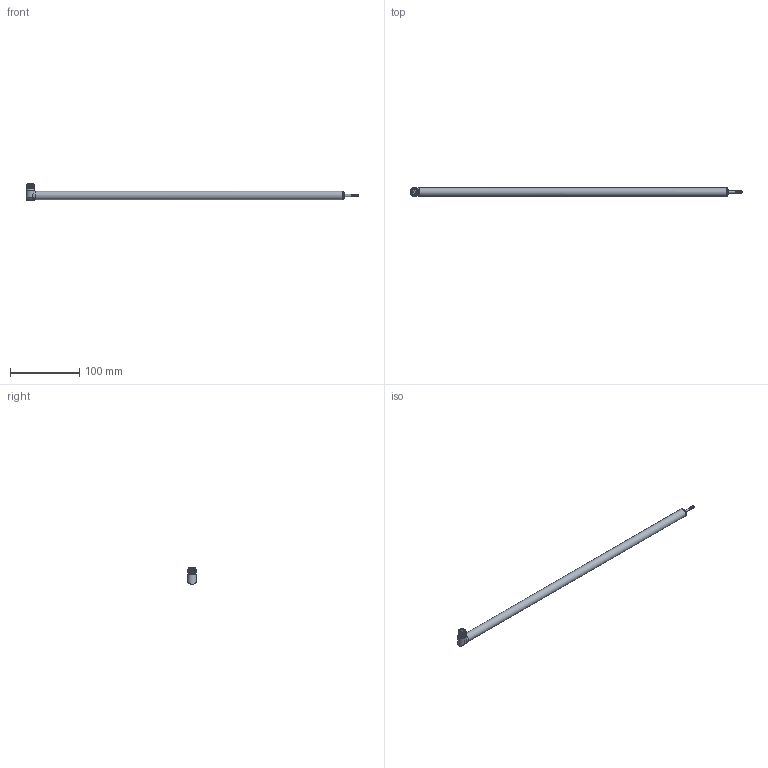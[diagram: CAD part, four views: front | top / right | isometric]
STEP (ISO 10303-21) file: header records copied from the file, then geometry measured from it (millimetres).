
FILE_DESCRIPTION( ( 'STEP AP214' ), '1' );
FILE_NAME( 'N:/Engineering/CAD_Solid/LVDT/SM/Kunden-3D-Modell/SM200-SG-SR.stp', '2011-12-12T13:38:35', ( ' ' ), ( ' ' ), 'XStep 1.0', ' ', ' ' );
FILE_SCHEMA( ( 'CONFIG_CONTROL_DESIGN) ( )' ) );
Length unit declared in the file: metre
Products named in the file (3): 1; 2; 3
Bounding box: 480 x 13 x 24.1 mm (x, y, z)
Surface area: 20817.8 mm2 (no closed solid volume)
Topology: 0 solids, 42 shells, 42 faces, 172 edges, 154 vertices
Faces by surface type: cylinder 18, plane 12, cone 7, bspline 5
Full cylindrical faces by diameter (mm): 1 x4, 2.4 x1, 3 x1, 8.5 x1, 10 x1, 10.6 x2, 11.8 x1, 12 x2, 13 x1
Entity records: 6116 total; most frequent: CARTESIAN_POINT 4571, DIRECTION 245, ORIENTED_EDGE 143, EDGE_CURVE 143, VERTEX_POINT 143, AXIS2_PLACEMENT_3D 114, CIRCLE 74, FACE_BOUND 73
